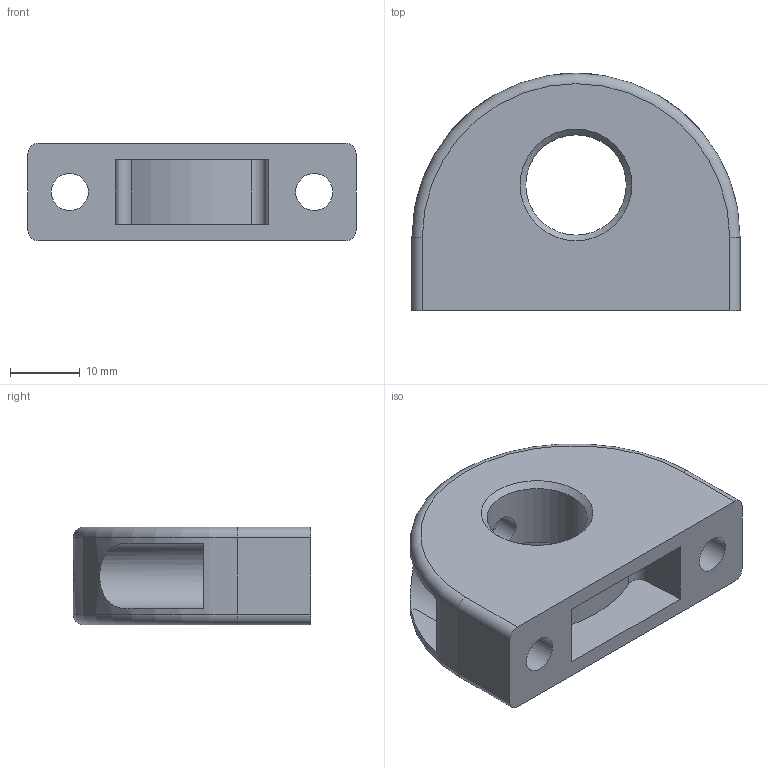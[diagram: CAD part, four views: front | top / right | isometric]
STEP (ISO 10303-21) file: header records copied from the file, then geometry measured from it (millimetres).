
FILE_DESCRIPTION( ( 'STEP AP203' ), '1' );
FILE_NAME( 'C:/Temp/Ganter_Step_05_03_2020/data/3_1/gn412_1/Mounting block GN 412.1-47-M16x1,5-1.stp', '2020-03-12T08:30:53', ( 'License CC BY-ND 4.0' ), ( 'CADENAS' ), ' ', 'PARTsolutions', ' ' );
FILE_SCHEMA( ( 'CONFIG_CONTROL_DESIGN' ) );
Length unit declared in the file: millimetre
Products named in the file (1): _Mounting block GN 412.1-47-M16x1,5-1
Bounding box: 47 x 34 x 14 mm (x, y, z)
Volume: 12345.7 mm3; surface area: 6332.2 mm2
Topology: 1 solids, 1 shells, 57 faces, 130 edges, 82 vertices
Faces by surface type: plane 31, cylinder 19, cone 5, torus 2
Full cylindrical faces by diameter (mm): 3 x1, 5 x2, 5.3 x2, 9.4 x2, 14.376 x1, 16.2 x1
Entity records: 1738 total; most frequent: CARTESIAN_POINT 458, DIRECTION 266, ORIENTED_EDGE 224, EDGE_CURVE 112, AXIS2_PLACEMENT_3D 102, EDGE_LOOP 82, VERTEX_POINT 80, FACE_OUTER_BOUND 64
